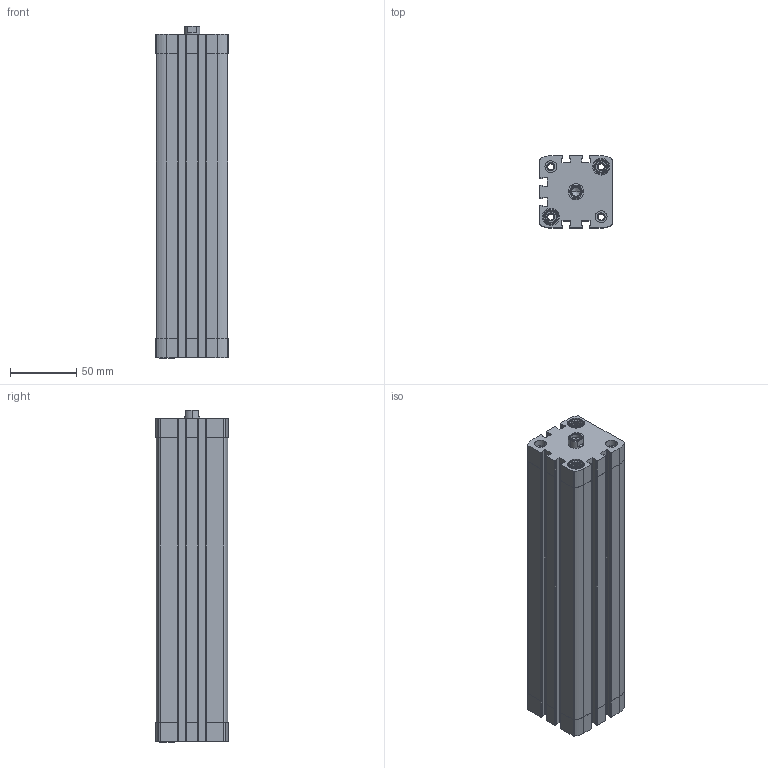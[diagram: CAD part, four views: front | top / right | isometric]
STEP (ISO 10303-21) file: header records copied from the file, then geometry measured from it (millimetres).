
FILE_DESCRIPTION (( 'STEP AP203' ), '1' );
FILE_NAME ('CCN40-200F.STEP', '2017-03-30T10:58:42', ( '' ), ( '' ), 'SwSTEP 2.0', 'SolidWorks 2016', '' );
FILE_SCHEMA (( 'CONFIG_CONTROL_DESIGN' ));
Length unit declared in the file: millimetre
Products named in the file (3): CCN-200_(KS); CCN40-200F; CCN-200---(Z)
Assembly tree (2 placements, depth 2):
  CCN40-200F
    CCN-200---(Z)
    CCN-200_(KS)
Bounding box: 54.5 x 54.5 x 251.1 mm (x, y, z)
Volume: 402649 mm3; surface area: 137701.9 mm2
Topology: 2 solids, 2 shells, 479 faces, 1304 edges, 859 vertices
Faces by surface type: plane 267, cylinder 170, cone 42
Entity records: 15649 total; most frequent: CARTESIAN_POINT 2939, DIRECTION 2664, ORIENTED_EDGE 2604, EDGE_CURVE 1302, AXIS2_PLACEMENT_3D 976, VERTEX_POINT 859, VECTOR 712, LINE 712
